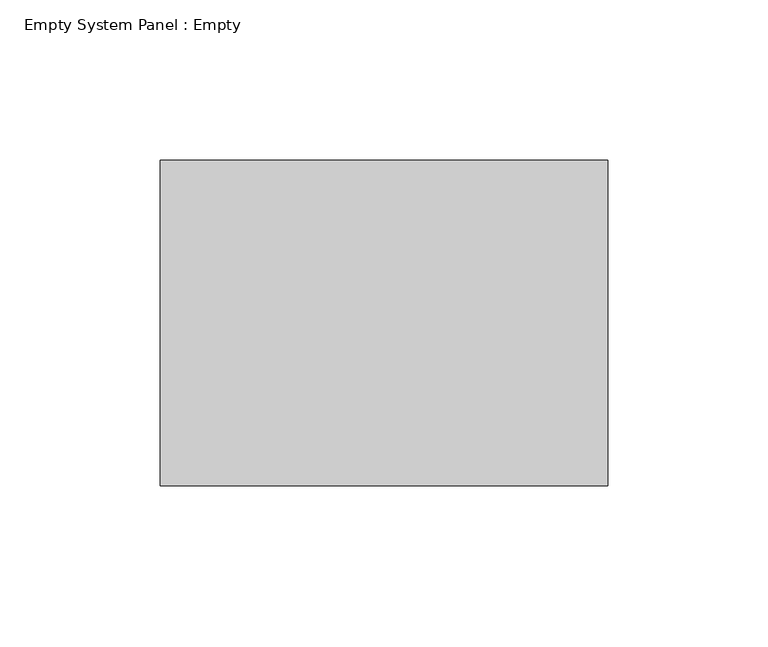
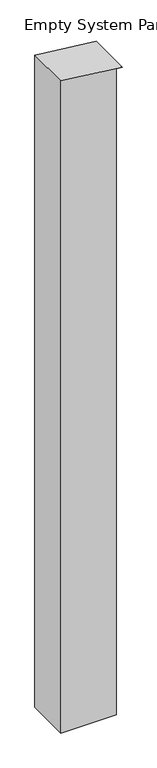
"""IFC4 building model written with IfcOpenShell, lengths in millimetres: plate geometry, Empty System Panel : Empty."""

from ifc_helpers import new_model, si_unit, frame, origin, place, context, project, spatial, polyline, outline, extrude, source, transform, mapped, element, save


def empty_system_panel_empty_70715eb4(model_context):
    return source(origin(), model_context, "Body", "SweptSolid", [
        extrude(outline(polyline([(0.0, -69.85), (0.0, 57.15), (1553.842253, 57.15), (1553.842253, 69.85), (1569.467443, -69.85), (0.0, -69.85)])), frame((0.0, -50.8, 0.0), z_axis=(0.0, 1.0, 0.0), x_axis=(0.0, 0.0, 1.0)), (0.0, 0.0, 1.0), 101.6),
    ])


if __name__ == "__main__":
    model = new_model("IFC4")
    model_context = context("Model", 3, world=origin())
    ifc_project = project(units=[si_unit("LENGTHUNIT", "METRE", prefix="MILLI")], contexts=[model_context])
    site = spatial("IfcSite", under=ifc_project)
    building = spatial("IfcBuilding", under=site)
    placement = place(None, origin())
    empty_system_panel_empty_shape = empty_system_panel_empty_70715eb4(model_context)
    element("IfcPlate", 1, ObjectType="Empty System Panel : Empty", at=placement, inside=building, context=model_context, shape_type="MappedRepresentation", body=[
        mapped(empty_system_panel_empty_shape, transform((0.0, 0.0, 0.0), x_axis=(1.0, 0.0, 0.0), y_axis=(0.0, 1.0, 0.0), z_axis=(0.0, 0.0, 1.0))),
    ])
    save(model, "model.ifc")
